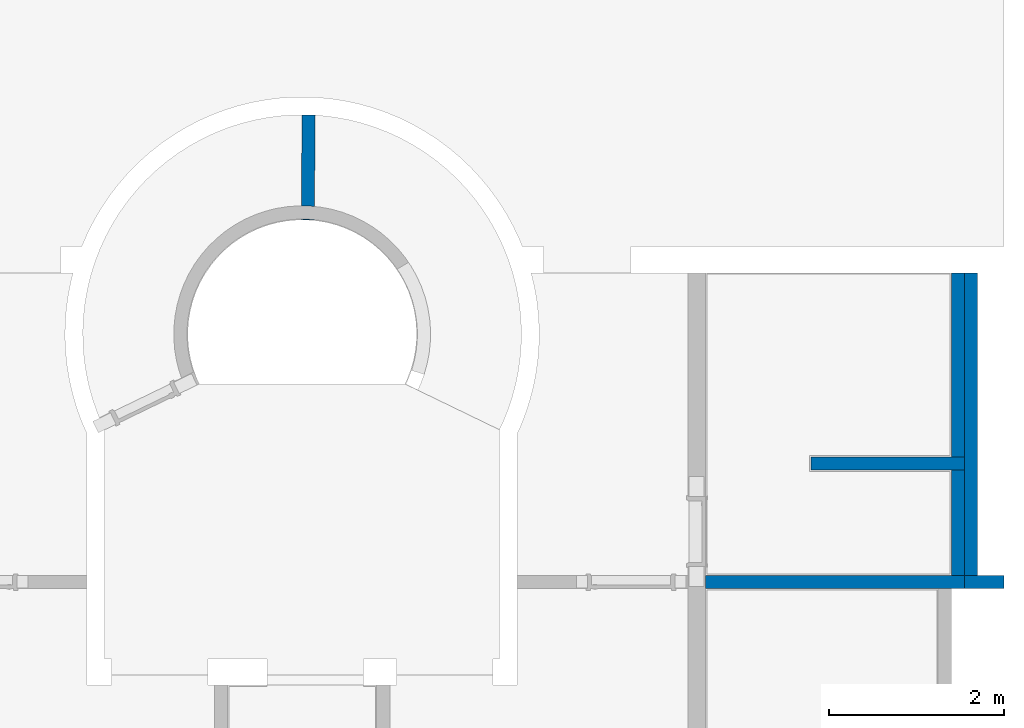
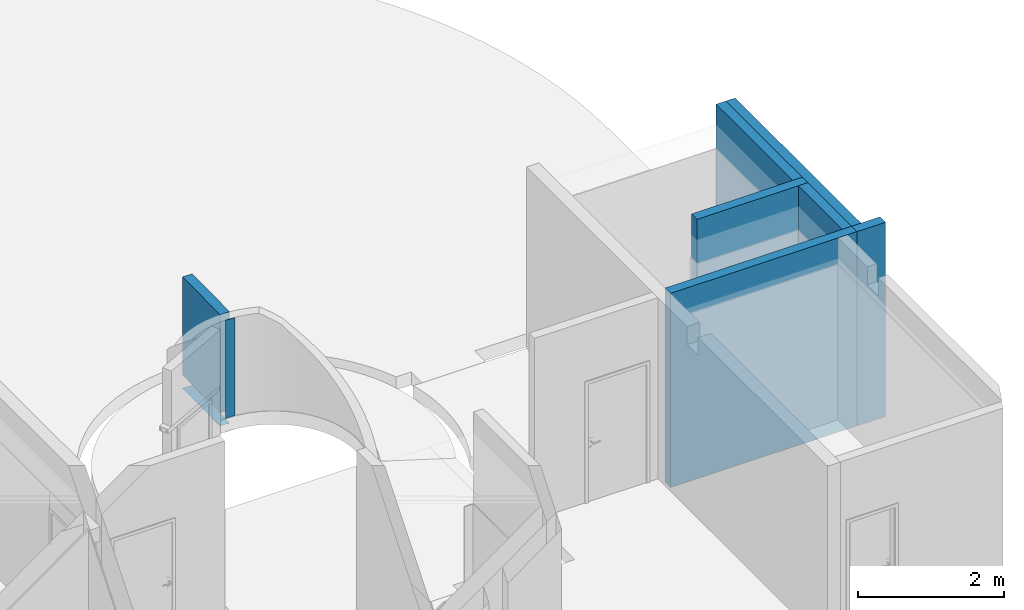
# One storey, part 21 of 21: 7 walls.
"""IFC4 building model written with IfcOpenShell, lengths in millimetres."""

from ifc_helpers import new_model, entity, si_unit, converted_unit, derived_unit, direction, frame, origin_with_axes, place, context, subcontext, project, spatial, polygons, material, constituent, constituent_set, type_object, element, save


model = new_model("IFC4")

# Units and contexts
model_context = context("Model", 3, precision=0.01, world=origin_with_axes(), true_north=direction((0.0, 1.0)))
body_context = subcontext(model_context, "Body", "Model", "MODEL_VIEW")
ifc_project = project(units=[si_unit("LENGTHUNIT", "METRE", prefix="MILLI"), si_unit("AREAUNIT", "SQUARE_METRE"), si_unit("VOLUMEUNIT", "CUBIC_METRE"), converted_unit("PLANEANGLEUNIT", "DEGREE", entity("IfcPlaneAngleMeasure", 0.0174532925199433), si_unit("PLANEANGLEUNIT", "RADIAN"), dimensions=[0, 0, 0, 0, 0, 0, 0]), converted_unit("TIMEUNIT", "Year", entity("IfcTimeMeasure", 31557600.0), si_unit("TIMEUNIT", "SECOND"), dimensions=[0, 0, 1, 0, 0, 0, 0]), si_unit("MASSUNIT", "GRAM", prefix="KILO"), si_unit("THERMODYNAMICTEMPERATUREUNIT", "DEGREE_CELSIUS"), si_unit("LUMINOUSINTENSITYUNIT", "LUMEN"), si_unit("ENERGYUNIT", "JOULE", prefix="MEGA"), derived_unit("THERMALCONDUCTANCEUNIT", [(si_unit("POWERUNIT", "WATT"), 1), (si_unit("LENGTHUNIT", "METRE"), -1), (si_unit("THERMODYNAMICTEMPERATUREUNIT", "KELVIN"), -1)]), derived_unit("SPECIFICHEATCAPACITYUNIT", [(si_unit("ENERGYUNIT", "JOULE"), 1), (si_unit("MASSUNIT", "GRAM", prefix="KILO"), -1), (si_unit("THERMODYNAMICTEMPERATUREUNIT", "KELVIN"), -1)]), derived_unit("MASSDENSITYUNIT", [(si_unit("MASSUNIT", "GRAM", prefix="KILO"), 1), (si_unit("VOLUMEUNIT", "CUBIC_METRE"), -1)])], contexts=[model_context])

# Site, building, storey
site_placement = place(None, origin_with_axes())
site = spatial("IfcSite", under=ifc_project, at=site_placement, Name="Exteriér", CompositionType="ELEMENT")
building_placement = place(site_placement, origin_with_axes())
building = spatial("IfcBuilding", under=site, at=building_placement, Name="Univerzitní lezecké centrum", CompositionType="ELEMENT")
storey_placement = place(building_placement, frame((0.0, 0.0, -3350.0), z_axis=(0.0, 0.0, 1.0), x_axis=(1.0, 0.0, 0.0)))
storey = spatial("IfcBuildingStorey", under=building, at=storey_placement, Name="1.PP", CompositionType="ELEMENT", Elevation=-3350.0)

# Walls
ifc_material_1 = material(Name="Keramické tvárnice nenosné tl. 150 mm")
ifc_constituent_1 = constituent(ifc_material_1, Name="Keramické tvárnice nenosné tl. 150 mm")
ifc_constituent_set_1 = constituent_set(constituents=[ifc_constituent_1], Name="!Vnitřní keramická stěna 150 mm - nenosná**")
wall_type_1 = type_object("IfcWallType", Name="!Vnitřní keramická stěna 150 mm - nenosná** 150", PredefinedType="NOTDEFINED")
wall_1_placement = place(storey_placement, frame((9999.851648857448, 2300.255037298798, -220.0000000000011), z_axis=(0.0, 0.0, 1.0), x_axis=(-0.9999999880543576, -0.0001545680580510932, 0.0)))
element("IfcWall", 1, at=wall_1_placement, inside=storey, type_object=wall_type_1, material=ifc_constituent_set_1, Name="St07**", PredefinedType="NOTDEFINED", context=body_context, shape_type="Tessellation", body=[
    polygons([(0.0231701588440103, 149.9999999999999, 3250.0), (1750.000000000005, 150.0000000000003, 3250.0), (1750.000000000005, 149.9999999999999, 0.0), (0.0, 150.0000000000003, 0.0), (0.0, 150.0000000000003, 120.0000000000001), (0.0231701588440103, 149.9999999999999, 120.000000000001), (-1.505010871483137e-05, 0.0, 3250.0), (1750.000000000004, 0.0, 3250.0), (1750.000000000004, 0.0, 0.0), (0.0, 0.0, 0.0), (0.0, 0.0, 120.0000000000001)], [[[1, 2, 3, 4, 5, 6]], [[7, 8, 2, 1]], [[9, 3, 2, 8]], [[4, 3, 9, 10]], [[4, 10, 11, 5]], [[5, 11, 6]], [[11, 7, 1, 6]], [[10, 9, 8, 7, 11]]], closed=True),
])
ifc_constituent_2 = constituent(ifc_material_1, Name="Keramické tvárnice nenosné tl. 150 mm")
ifc_constituent_set_2 = constituent_set(constituents=[ifc_constituent_2], Name="!Vnitřní keramická stěna 150 mm - nenosná**")
wall_2_placement = place(storey_placement, frame((9999.851648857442, 949.9999999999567, -220.0000000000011), z_axis=(0.0, 0.0, 1.0), x_axis=(-1.0, 0.0, 0.0)))
element("IfcWall", 2, at=wall_2_placement, inside=storey, type_object=wall_type_1, material=ifc_constituent_set_2, Name="St07**", PredefinedType="NOTDEFINED", context=body_context, shape_type="Tessellation", body=[
    polygons([(2949.739482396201, 150.0, 3250.000000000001), (-1.50501868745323e-05, 150.0000000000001, 3250.000000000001), (-1.50501868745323e-05, 0.0, 3250.000000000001), (2949.739482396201, 0.0, 3250.000000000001), (0.0, 150.0, 0.0), (-1.50501868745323e-05, 150.0, 120.0000000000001), (2949.739482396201, 149.9999999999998, 0.0), (-1.50501868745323e-05, 0.0, 120.0000000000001), (0.0, 0.0, 0.0), (2949.739482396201, 0.0, 0.0)], [[[1, 2, 3, 4]], [[5, 6, 2, 1, 7]], [[6, 8, 3, 2]], [[4, 3, 8, 9, 10]], [[1, 4, 10, 7]], [[9, 8, 6, 5]], [[10, 9, 5, 7]]], closed=True),
])
ifc_material_2 = material(Name="SDK nosný rám")
ifc_constituent_3 = constituent(ifc_material_2, Name="SDK nosný rám")
ifc_material_3 = material(Name="Sádrokarton - voděodolný")
ifc_constituent_4 = constituent(ifc_material_3, Name="Sádrokarton - voděodolný 1")
ifc_constituent_5 = constituent(ifc_material_3, Name="Sádrokarton - voděodolný 2")
ifc_material_4 = material(Name="Lepicí tmel na dlažbu a obklady")
ifc_constituent_6 = constituent(ifc_material_4, Name="Lepicí tmel na dlažbu a obklady")
ifc_material_5 = material(Name="Keramická dlažba 20x40 - obklad")
ifc_constituent_7 = constituent(ifc_material_5, Name="Keramická dlažba 20x40 - obklad")
ifc_constituent_set_3 = constituent_set(constituents=[ifc_constituent_3, ifc_constituent_4, ifc_constituent_5, ifc_constituent_6, ifc_constituent_7], Name="SDK - instalační předstěna")
wall_type_2 = type_object("IfcWallType", Name="SDK - instalační předstěna 150", PredefinedType="NOTDEFINED")
wall_3_placement = place(storey_placement, frame((9999.851648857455, 4399.999999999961, -100.000000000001), z_axis=(0.0, 0.0, 1.0), x_axis=(0.0, -1.0, 0.0)))
element("IfcWall", 3, at=wall_3_placement, inside=storey, type_object=wall_type_2, material=ifc_constituent_set_3, Name="St08", PredefinedType="NOTDEFINED", context=body_context, shape_type="Tessellation", body=[
    polygons([(2099.744962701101, 0.0, 80.99999999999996), (0.0, 0.0, 80.99999999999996), (0.0, 0.0, 3130.0), (2099.744962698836, 1.505010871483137e-05, 3130.0), (0.0, -115.0000000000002, 80.99999999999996), (2099.762738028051, -115.0000000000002, 80.99999999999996), (0.0, -115.0000000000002, 3130.0), (2099.744962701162, -115.0000000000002, 3130.0), (2099.762738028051, -115.0000000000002, 3130.0)], [[[1, 2, 3, 4]], [[5, 2, 1, 6]], [[2, 5, 7, 3]], [[4, 3, 7, 8]], [[6, 1, 4, 9]], [[5, 6, 9, 8, 7]], [[4, 8, 9]]], closed=True),
    polygons([(2099.762738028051, -115.0000000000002, 87.00000000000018), (0.0, -115.0000000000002, 87.00000000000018), (0.0, -115.0000000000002, 3130.0), (2099.744962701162, -115.0000000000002, 3130.0), (2099.762738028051, -115.0000000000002, 3130.0), (0.0, -127.0000000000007, 87.00000000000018), (2099.76459284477, -127.0000000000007, 87.00000000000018), (0.0, -127.0000000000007, 3130.0), (2099.744962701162, -127.0000000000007, 3130.0), (2099.76459284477, -127.0000000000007, 3130.0)], [[[1, 2, 3, 4, 5]], [[6, 2, 1, 7]], [[2, 6, 8, 3]], [[4, 3, 8, 9]], [[4, 9, 10, 5]], [[7, 1, 5, 10]], [[6, 7, 10, 9, 8]]], closed=True),
    polygons([(2099.76459284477, -127.0000000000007, 87.00000000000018), (0.0, -127.0000000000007, 87.00000000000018), (0.0, -127.0000000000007, 3130.0), (2099.744962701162, -127.0000000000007, 3130.0), (2099.76459284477, -127.0000000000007, 3130.0), (0.0, -140.0000000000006, 87.00000000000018), (2099.766602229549, -140.0000000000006, 87.00000000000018), (0.0, -140.0000000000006, 3130.0), (2099.744962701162, -140.0000000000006, 3130.0), (2099.766602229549, -140.0000000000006, 3130.0)], [[[1, 2, 3, 4, 5]], [[6, 2, 1, 7]], [[2, 6, 8, 3]], [[4, 3, 8, 9]], [[4, 9, 10, 5]], [[7, 1, 5, 10]], [[6, 7, 10, 9, 8]]], closed=True),
    polygons([(2099.766602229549, -140.0000000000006, 90.0000000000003), (0.0, -140.0000000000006, 90.0000000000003), (0.0, -140.0000000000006, 3130.0), (2099.744962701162, -140.0000000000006, 3130.0), (2099.766602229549, -140.0000000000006, 3130.0), (0.0, -143.0000000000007, 90.0000000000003), (2099.767065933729, -143.0000000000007, 90.0000000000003), (0.0, -143.0000000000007, 3130.0), (2099.744962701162, -143.0000000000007, 3130.0), (2099.767065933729, -143.0000000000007, 3130.0)], [[[1, 2, 3, 4, 5]], [[6, 2, 1, 7]], [[2, 6, 8, 3]], [[4, 3, 8, 9]], [[4, 9, 10, 5]], [[7, 1, 5, 10]], [[6, 7, 10, 9, 8]]], closed=True),
    polygons([(2099.767065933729, -143.0000000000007, 100.0000000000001), (0.0, -143.0000000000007, 100.0000000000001), (0.0, -143.0000000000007, 3130.0), (2099.744962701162, -143.0000000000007, 3130.0), (2099.767065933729, -143.0000000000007, 3130.0), (0.0, -150.0000000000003, 100.0000000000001), (2099.768147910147, -150.0000000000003, 100.0000000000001), (0.0, -150.0000000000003, 3130.0), (2099.744962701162, -150.0000000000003, 3130.0), (2099.768147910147, -150.0000000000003, 3130.0)], [[[1, 2, 3, 4, 5]], [[6, 2, 1, 7]], [[2, 6, 8, 3]], [[4, 3, 8, 9]], [[4, 9, 10, 5]], [[7, 1, 5, 10]], [[6, 7, 10, 9, 8]]], closed=True),
])
ifc_constituent_8 = constituent(ifc_material_2, Name="SDK nosný rám")
ifc_constituent_9 = constituent(ifc_material_3, Name="Sádrokarton - voděodolný 1")
ifc_constituent_10 = constituent(ifc_material_3, Name="Sádrokarton - voděodolný 2")
ifc_constituent_11 = constituent(ifc_material_4, Name="Lepicí tmel na dlažbu a obklady")
ifc_constituent_12 = constituent(ifc_material_5, Name="Keramická dlažba 20x40 - obklad")
ifc_constituent_set_4 = constituent_set(constituents=[ifc_constituent_8, ifc_constituent_9, ifc_constituent_10, ifc_constituent_11, ifc_constituent_12], Name="SDK - instalační předstěna")
wall_4_placement = place(storey_placement, frame((9999.851648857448, 2300.255037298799, -100.000000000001), z_axis=(0.0, 0.0, 1.0), x_axis=(0.0, -1.0, 0.0)))
element("IfcWall", 4, at=wall_4_placement, inside=storey, type_object=wall_type_2, material=ifc_constituent_set_4, Name="St08", PredefinedType="NOTDEFINED", context=body_context, shape_type="Tessellation", body=[
    polygons([(1350.255037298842, 0.0, 80.99999999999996), (150.0000017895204, 0.0, 80.99999999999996), (150.0000017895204, 1.505014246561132e-05, 3130.0), (1350.255037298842, 1.50501868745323e-05, 3130.0), (150.0177771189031, -115.0000000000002, 81.0000000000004), (1350.255037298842, -115.0000000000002, 80.99999999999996), (150.0177771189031, -115.0000000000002, 3130.0), (1350.255037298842, -115.0000000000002, 3130.0)], [[[1, 2, 3, 4]], [[5, 2, 1, 6]], [[2, 5, 7, 3]], [[4, 3, 7, 8]], [[6, 1, 4, 8]], [[5, 6, 8, 7]]], closed=True),
    polygons([(1350.255037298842, -115.0000000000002, 87.00000000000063), (150.0177771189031, -115.0000000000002, 87.00000000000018), (150.0177771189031, -115.0000000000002, 3130.0), (1350.255037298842, -115.0000000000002, 3130.0), (150.0196319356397, -127.0000000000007, 87.00000000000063), (1350.255037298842, -127.0000000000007, 87.00000000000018), (150.0196319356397, -127.0000000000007, 3130.0), (1350.255037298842, -127.0000000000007, 3130.0)], [[[1, 2, 3, 4]], [[5, 2, 1, 6]], [[2, 5, 7, 3]], [[4, 3, 7, 8]], [[6, 1, 4, 8]], [[5, 6, 8, 7]]], closed=True),
    polygons([(1350.255037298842, -127.0000000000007, 87.00000000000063), (150.0196319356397, -127.0000000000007, 87.00000000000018), (150.0196319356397, -127.0000000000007, 3130.0), (1350.255037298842, -127.0000000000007, 3130.0), (150.0216413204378, -140.0000000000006, 87.00000000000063), (1350.255037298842, -140.0000000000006, 87.00000000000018), (150.0216413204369, -140.0000000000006, 3130.0), (1350.255037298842, -140.0000000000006, 3130.0)], [[[1, 2, 3, 4]], [[5, 2, 1, 6]], [[2, 5, 7, 3]], [[4, 3, 7, 8]], [[6, 1, 4, 8]], [[5, 6, 8, 7]]], closed=True),
    polygons([(1350.255037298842, -140.0000000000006, 90.00000000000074), (150.0216413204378, -140.0000000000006, 90.0000000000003), (150.0216413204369, -140.0000000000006, 3130.0), (1350.255037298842, -140.0000000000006, 3130.0), (150.0221050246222, -143.0000000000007, 90.00000000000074), (1350.255037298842, -143.0000000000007, 90.0000000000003), (150.0221050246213, -143.0000000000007, 3130.0), (1350.255037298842, -143.0000000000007, 3130.0)], [[[1, 2, 3, 4]], [[5, 2, 1, 6]], [[2, 5, 7, 3]], [[4, 3, 7, 8]], [[6, 1, 4, 8]], [[5, 6, 8, 7]]], closed=True),
    polygons([(1350.255037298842, -143.0000000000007, 100.0000000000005), (150.0221050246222, -143.0000000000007, 100.0000000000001), (150.0221050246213, -143.0000000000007, 3130.0), (1350.255037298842, -143.0000000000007, 3130.0), (150.0231870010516, -150.0000000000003, 100.0000000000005), (1350.255037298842, -150.0000000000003, 100.0000000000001), (150.0231870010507, -150.0000000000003, 3130.0), (1350.255037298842, -150.0000000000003, 3130.0)], [[[1, 2, 3, 4]], [[5, 2, 1, 6]], [[2, 5, 7, 3]], [[4, 3, 7, 8]], [[6, 1, 4, 8]], [[5, 6, 8, 7]]], closed=True),
])
wall_type_3 = type_object("IfcWallType", Name="Keramické tvárnice nenosné tl. 150 mm 150", PredefinedType="NOTDEFINED")
wall_5_placement = place(storey_placement, frame((10449.85164885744, 949.9999999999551, -220.0000000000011), z_axis=(0.0, 0.0, 1.0), x_axis=(-1.0, 0.0, 0.0)))
element("IfcWall", 5, at=wall_5_placement, inside=storey, type_object=wall_type_3, material=ifc_material_1, PredefinedType="NOTDEFINED", context=body_context, shape_type="Tessellation", body=[
    polygons([(449.9999999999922, 0.0, 0.0), (449.9999849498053, 0.0, 120.0000000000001), (449.9999849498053, 0.0, 3250.000000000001), (0.0, 0.0, 3250.000000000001), (0.0, 0.0, 0.0), (449.9999999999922, 150.0, 0.0), (449.9999849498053, 150.0, 120.0000000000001), (449.9999849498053, 150.0000000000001, 3250.000000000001), (0.0, 150.0000000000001, 3250.000000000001), (0.0, 150.0, 0.0)], [[[1, 2, 3, 4, 5]], [[6, 7, 8, 3, 2, 1]], [[4, 3, 8, 9]], [[10, 5, 4, 9]], [[5, 10, 6, 1]], [[9, 8, 7, 6, 10]]], closed=True),
])
wall_6_placement = place(storey_placement, frame((10149.85164885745, 4699.999999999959, -220.0000000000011), z_axis=(0.0, 0.0, 1.0), x_axis=(0.0, -1.0, 0.0)))
element("IfcWall", 6, at=wall_6_placement, inside=storey, type_object=wall_type_3, material=ifc_material_1, Name="St08", PredefinedType="NOTDEFINED", context=body_context, shape_type="Tessellation", body=[
    polygons([(299.9999999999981, -150.0000000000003, 0.0), (299.9999999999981, -150.0000000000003, 3250.0), (299.9999999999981, 0.0, 3250.0), (299.9999999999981, 0.0, 0.0), (3750.000000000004, -149.9999999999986, 120.0000000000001), (3750.000000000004, -150.0000000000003, 3250.0), (3750.000000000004, -149.9999999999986, 0.0), (3750.000000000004, 0.0, 3250.0), (3750.000000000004, 0.0, 0.0)], [[[1, 2, 3, 4]], [[5, 6, 2, 1, 7]], [[6, 8, 3, 2]], [[4, 3, 8, 9]], [[1, 4, 9, 7]], [[9, 8, 6, 5, 7]]], closed=True),
])
ifc_material_6 = material(Name="Pórobetonové tvárnice - nenosné")
wall_type_4 = type_object("IfcWallType", Name="Pórobetonové tvárnice - nenosné 150", PredefinedType="NOTDEFINED")
wall_7_placement = place(storey_placement, frame((2449.851648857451, 6199.999999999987, -220.0000000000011), z_axis=(0.0, 0.0, 1.0), x_axis=(-0.009070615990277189, -0.9999588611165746, 0.0)))
element("IfcWall", 7, at=wall_7_placement, inside=storey, type_object=wall_type_4, material=ifc_material_6, Name="Z061", PredefinedType="NOTDEFINED", context=body_context, shape_type="Tessellation", body=[
    polygons([(1188.651415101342, 83.98918214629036, 0.0), (1188.651415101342, 83.98918214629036, 1.500000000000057), (1194.579056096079, 149.9999999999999, 1.500000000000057), (1194.579056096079, 149.9999999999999, 0.0), (1188.458965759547, 0.0, 0.0), (1188.458965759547, 0.0, 1.500000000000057), (1195.781234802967, 0.0, 1.500000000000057), (1195.781234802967, 149.9999999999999, 1.500000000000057), (1195.781234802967, 149.9999999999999, 0.0), (1195.781234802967, 0.0, 0.0)], [[[1, 2, 3, 4]], [[5, 6, 2, 1]], [[7, 8, 3, 2, 6]], [[4, 3, 8, 9]], [[10, 5, 1, 4, 9]], [[10, 7, 6, 5]], [[9, 8, 7, 10]]], closed=True),
    polygons([(-1.13535662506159, 56.3568428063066, 0.0), (-1.13535662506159, 56.35684280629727, 1.500000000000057), (3.100105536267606, 149.9999999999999, 1.500000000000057), (3.100105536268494, 149.9999999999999, 0.0), (0.0, 0.0, 0.0), (0.0, 0.0, 1.500000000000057), (1038.666815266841, 90.88200929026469, 1.500000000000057), (1043.975494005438, 149.9999999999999, 1.500000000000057), (1038.458571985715, 0.0, 1.500000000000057), (1043.975494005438, 149.9999999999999, 0.0), (1038.666815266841, 90.88200929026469, 0.0), (1038.458571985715, 0.0, 0.0)], [[[1, 2, 3, 4]], [[5, 6, 2, 1]], [[7, 8, 3, 2, 6, 9]], [[4, 3, 8, 10]], [[4, 10, 11, 12, 5, 1]], [[12, 9, 6, 5]], [[10, 8, 7, 11]], [[11, 7, 9, 12]]], closed=True),
    polygons([(1195.781234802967, 149.9999999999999, 1862.500000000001), (1195.781234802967, 149.9999999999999, 220.0000000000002), (1194.579056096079, 149.9999999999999, 220.0000000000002), (1194.579056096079, 149.9999999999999, 1862.500000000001), (1195.781234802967, 0.0, 1862.500000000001), (1195.781234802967, 0.0, 220.0000000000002), (1188.458965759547, 0.0, 220.0000000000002), (1188.651415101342, 83.98918214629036, 220.0000000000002), (1188.651415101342, 83.98918214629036, 1862.500000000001), (1188.458965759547, 0.0, 1862.500000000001)], [[[1, 2, 3, 4]], [[5, 6, 2, 1]], [[7, 8, 3, 2, 6]], [[4, 3, 8, 9]], [[1, 4, 9, 10, 5]], [[10, 7, 6, 5]], [[9, 8, 7, 10]]], closed=True),
    polygons([(1043.975494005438, 149.9999999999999, 1862.500000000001), (1043.975494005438, 149.9999999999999, 220.0000000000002), (3.100105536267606, 149.9999999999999, 220.0000000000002), (3.100105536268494, 150.0000000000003, 1862.500000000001), (1038.666815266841, 90.88200929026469, 1862.500000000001), (1038.666815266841, 90.88200929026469, 220.0000000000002), (0.0, 0.0, 220.0000000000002), (-1.13535662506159, 56.35684280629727, 220.0000000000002), (1038.458571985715, 0.0, 220.0000000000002), (-1.13535662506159, 56.3568428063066, 1862.500000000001), (0.0, 0.0, 1862.500000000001), (1038.458571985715, 0.0, 1862.500000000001)], [[[1, 2, 3, 4]], [[5, 6, 2, 1]], [[7, 8, 3, 2, 6, 9]], [[4, 3, 8, 10]], [[10, 11, 12, 5, 1, 4]], [[12, 9, 6, 5]], [[10, 8, 7, 11]], [[11, 7, 9, 12]]], closed=True),
])

save(model, "model.ifc")
